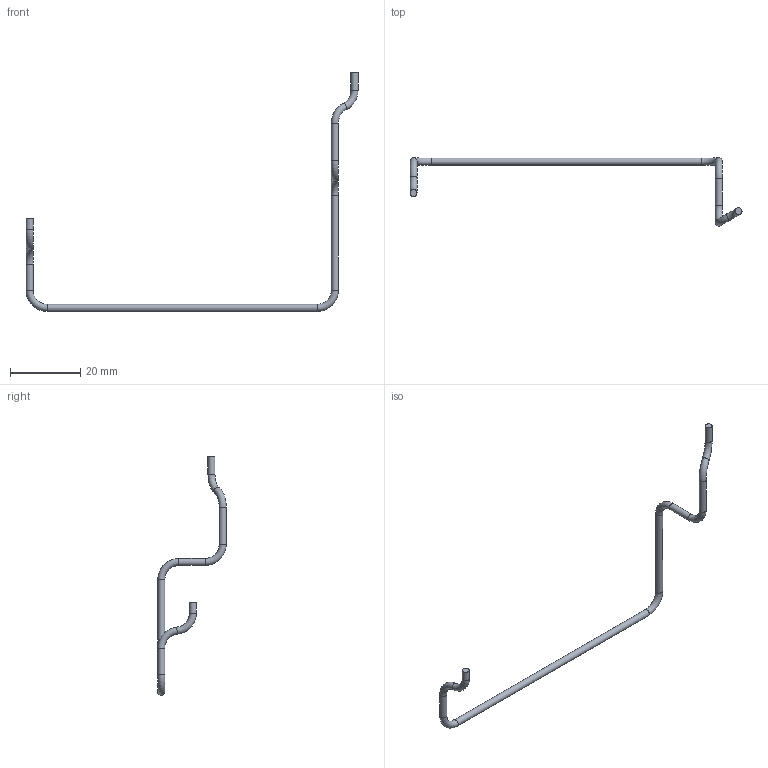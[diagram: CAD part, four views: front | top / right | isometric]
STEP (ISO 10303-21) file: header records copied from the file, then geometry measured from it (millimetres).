
FILE_DESCRIPTION(('Open CASCADE Model'),'2;1');
FILE_NAME('Open CASCADE Shape Model','2026-10-07T05:38:00',('Author'),( 'Open CASCADE'),'Open CASCADE STEP processor 7.7','Open CASCADE 7.7' ,'Unknown');
FILE_SCHEMA(('AUTOMOTIVE_DESIGN { 1 0 10303 214 1 1 1 1 }'));
Length unit declared in the file: millimetre
Products named in the file (1): Open CASCADE STEP translator 7.7 1
Bounding box: 94.6 x 19.5 x 68 mm (x, y, z)
Volume: 615.1 mm3; surface area: 1236.6 mm2
Topology: 1 solids, 1 shells, 17 faces, 31 edges, 16 vertices
Faces by surface type: torus 8, cylinder 7, plane 2
Full cylindrical faces by diameter (mm): 2 x7
Entity records: 801 total; most frequent: CARTESIAN_POINT 156, DIRECTION 124, ORIENTED_EDGE 62, PCURVE 62, DEFINITIONAL_REPRESENTATION 62, AXIS2_PLACEMENT_3D 42, LINE 38, VECTOR 38
